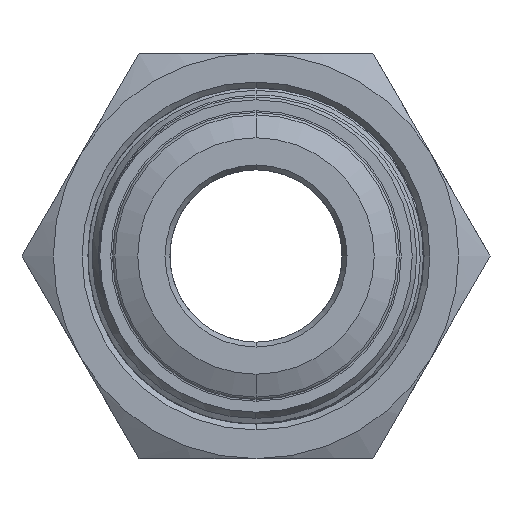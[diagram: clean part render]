
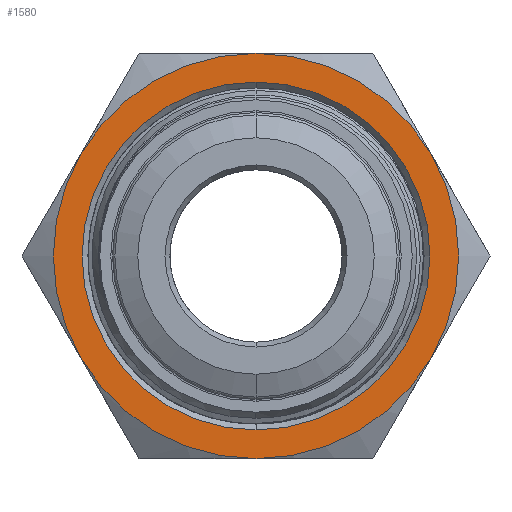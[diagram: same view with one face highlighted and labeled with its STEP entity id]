
A CAD part, front view. The second image highlights one B-rep face of the part: STEP entity #1580.
In plain terms, the highlighted planar face has unit normal (0, -1, 0).
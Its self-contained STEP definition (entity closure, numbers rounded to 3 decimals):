
#30 = DIRECTION ( 'NONE',  ( 0., -1., 0. ) ) ;
#100 = DIRECTION ( 'NONE',  ( 0., -1., 0. ) ) ;
#239 = EDGE_CURVE ( 'NONE', #3079, #3363, #3393, .T. ) ;
#594 = DIRECTION ( 'NONE',  ( 0., 0., -1. ) ) ;
#678 = CARTESIAN_POINT ( 'NONE',  ( 0., 8.076, -12. ) ) ;
#739 = EDGE_CURVE ( 'NONE', #2507, #1622, #6182, .T. ) ;
#971 = CARTESIAN_POINT ( 'NONE',  ( 0., 8.076, 0. ) ) ;
#995 = FACE_OUTER_BOUND ( 'NONE', #7339, .T. ) ;
#1301 = ORIENTED_EDGE ( 'NONE', *, *, #739, .T. ) ;
#1480 = DIRECTION ( 'NONE',  ( 0., 0., -1. ) ) ;
#1566 = DIRECTION ( 'NONE',  ( 0., 0., -1. ) ) ;
#1580 = ADVANCED_FACE ( 'NONE', ( #10376, #995 ), #4557, .T. ) ;
#1622 = VERTEX_POINT ( 'NONE', #1792 ) ;
#1694 = EDGE_CURVE ( 'NONE', #7885, #7243, #6383, .T. ) ;
#1792 = CARTESIAN_POINT ( 'NONE',  ( 10.392, 8.076, -6. ) ) ;
#1957 = CARTESIAN_POINT ( 'NONE',  ( 0., 8.076, -10.3 ) ) ;
#1986 = DIRECTION ( 'NONE',  ( 0., 0., -1. ) ) ;
#2091 = CARTESIAN_POINT ( 'NONE',  ( 0., 8.076, 0. ) ) ;
#2507 = VERTEX_POINT ( 'NONE', #678 ) ;
#2533 = VERTEX_POINT ( 'NONE', #6763 ) ;
#2991 = AXIS2_PLACEMENT_3D ( 'NONE', #5424, #100, #6822 ) ;
#3079 = VERTEX_POINT ( 'NONE', #1957 ) ;
#3113 = ORIENTED_EDGE ( 'NONE', *, *, #4415, .T. ) ;
#3363 = VERTEX_POINT ( 'NONE', #8608 ) ;
#3393 = CIRCLE ( 'NONE', #10861, 10.3 ) ;
#4116 = EDGE_CURVE ( 'NONE', #7243, #2507, #9149, .T. ) ;
#4235 = DIRECTION ( 'NONE',  ( 0., 1., 0. ) ) ;
#4415 = EDGE_CURVE ( 'NONE', #1622, #2533, #12227, .T. ) ;
#4557 = PLANE ( 'NONE',  #11489 ) ;
#4973 = CARTESIAN_POINT ( 'NONE',  ( 0., 8.076, 12. ) ) ;
#5424 = CARTESIAN_POINT ( 'NONE',  ( 0., 8.076, 0. ) ) ;
#5725 = CIRCLE ( 'NONE', #8950, 10.3 ) ;
#6182 = CIRCLE ( 'NONE', #2991, 12. ) ;
#6200 = EDGE_CURVE ( 'NONE', #12357, #7885, #7768, .T. ) ;
#6222 = DIRECTION ( 'NONE',  ( 0., -1., 0. ) ) ;
#6308 = AXIS2_PLACEMENT_3D ( 'NONE', #11723, #30, #7832 ) ;
#6383 = CIRCLE ( 'NONE', #10296, 12. ) ;
#6435 = CARTESIAN_POINT ( 'NONE',  ( 0., 8.076, 0. ) ) ;
#6728 = DIRECTION ( 'NONE',  ( 0., -1., 0. ) ) ;
#6763 = CARTESIAN_POINT ( 'NONE',  ( 10.392, 8.076, 6. ) ) ;
#6783 = DIRECTION ( 'NONE',  ( 0., -1., 0. ) ) ;
#6822 = DIRECTION ( 'NONE',  ( 0., 0., -1. ) ) ;
#7243 = VERTEX_POINT ( 'NONE', #10934 ) ;
#7259 = AXIS2_PLACEMENT_3D ( 'NONE', #971, #8050, #1986 ) ;
#7289 = AXIS2_PLACEMENT_3D ( 'NONE', #6435, #6783, #9817 ) ;
#7339 = EDGE_LOOP ( 'NONE', ( #1301, #3113, #10019, #10931, #10202, #8232 ) ) ;
#7661 = EDGE_LOOP ( 'NONE', ( #8726, #9964 ) ) ;
#7749 = EDGE_CURVE ( 'NONE', #2533, #12357, #11062, .T. ) ;
#7768 = CIRCLE ( 'NONE', #7259, 12. ) ;
#7832 = DIRECTION ( 'NONE',  ( 0., 0., -1. ) ) ;
#7885 = VERTEX_POINT ( 'NONE', #9805 ) ;
#8050 = DIRECTION ( 'NONE',  ( 0., -1., 0. ) ) ;
#8232 = ORIENTED_EDGE ( 'NONE', *, *, #4116, .T. ) ;
#8608 = CARTESIAN_POINT ( 'NONE',  ( 0., 8.076, 10.3 ) ) ;
#8726 = ORIENTED_EDGE ( 'NONE', *, *, #239, .T. ) ;
#8950 = AXIS2_PLACEMENT_3D ( 'NONE', #10212, #4235, #11214 ) ;
#9101 = DIRECTION ( 'NONE',  ( 0., 0., -1. ) ) ;
#9149 = CIRCLE ( 'NONE', #7289, 12. ) ;
#9449 = DIRECTION ( 'NONE',  ( 0., -1., 0. ) ) ;
#9805 = CARTESIAN_POINT ( 'NONE',  ( -10.392, 8.076, 6. ) ) ;
#9817 = DIRECTION ( 'NONE',  ( 0., 0., -1. ) ) ;
#9964 = ORIENTED_EDGE ( 'NONE', *, *, #11139, .T. ) ;
#10019 = ORIENTED_EDGE ( 'NONE', *, *, #7749, .T. ) ;
#10202 = ORIENTED_EDGE ( 'NONE', *, *, #1694, .T. ) ;
#10212 = CARTESIAN_POINT ( 'NONE',  ( 0., 8.076, 0. ) ) ;
#10222 = CARTESIAN_POINT ( 'NONE',  ( 0., 8.076, 0. ) ) ;
#10296 = AXIS2_PLACEMENT_3D ( 'NONE', #2091, #6222, #9101 ) ;
#10376 = FACE_BOUND ( 'NONE', #7661, .T. ) ;
#10640 = DIRECTION ( 'NONE',  ( 0., 1., 0. ) ) ;
#10702 = CARTESIAN_POINT ( 'NONE',  ( 0., 8.076, 0. ) ) ;
#10861 = AXIS2_PLACEMENT_3D ( 'NONE', #10222, #10640, #1480 ) ;
#10931 = ORIENTED_EDGE ( 'NONE', *, *, #6200, .T. ) ;
#10934 = CARTESIAN_POINT ( 'NONE',  ( -10.392, 8.076, -6. ) ) ;
#11062 = CIRCLE ( 'NONE', #12338, 12. ) ;
#11139 = EDGE_CURVE ( 'NONE', #3363, #3079, #5725, .T. ) ;
#11214 = DIRECTION ( 'NONE',  ( 0., 0., -1. ) ) ;
#11489 = AXIS2_PLACEMENT_3D ( 'NONE', #10702, #9449, #1566 ) ;
#11723 = CARTESIAN_POINT ( 'NONE',  ( 0., 8.076, 0. ) ) ;
#12227 = CIRCLE ( 'NONE', #6308, 12. ) ;
#12338 = AXIS2_PLACEMENT_3D ( 'NONE', #12638, #6728, #594 ) ;
#12357 = VERTEX_POINT ( 'NONE', #4973 ) ;
#12638 = CARTESIAN_POINT ( 'NONE',  ( 0., 8.076, 0. ) ) ;
